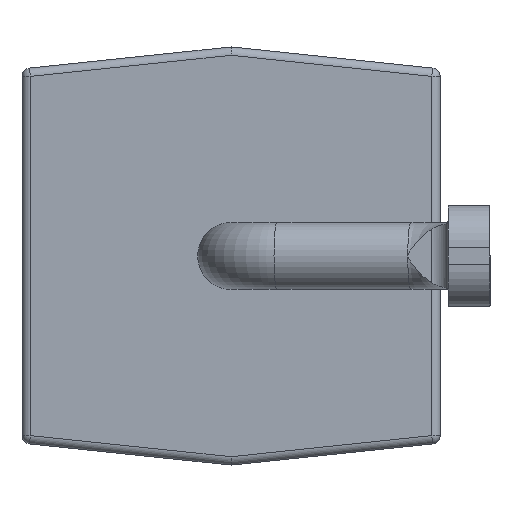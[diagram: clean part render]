
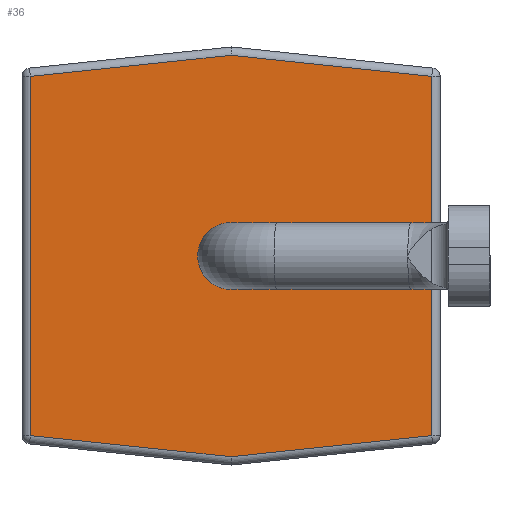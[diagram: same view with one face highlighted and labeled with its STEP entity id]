
A CAD part, left-side view. The second image highlights one B-rep face of the part: STEP entity #36.
In plain terms, the highlighted planar face has unit normal (-1, 0, 0).
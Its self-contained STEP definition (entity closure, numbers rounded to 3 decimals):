
#35 = VECTOR ( 'NONE', #488, 1000. ) ;
#36 = ADVANCED_FACE ( 'NONE', ( #1937 ), #2423, .F. ) ;
#158 = EDGE_CURVE ( 'NONE', #2889, #1620, #2102, .T. ) ;
#169 = LINE ( 'NONE', #2878, #1018 ) ;
#182 = VECTOR ( 'NONE', #671, 1000. ) ;
#214 = EDGE_LOOP ( 'NONE', ( #2693, #2294, #1868, #2803, #1371, #886 ) ) ;
#238 = EDGE_CURVE ( 'NONE', #1620, #2384, #1431, .T. ) ;
#271 = EDGE_CURVE ( 'NONE', #2746, #2898, #169, .T. ) ;
#285 = EDGE_CURVE ( 'NONE', #1046, #2889, #700, .T. ) ;
#317 = DIRECTION ( 'NONE',  ( 0., 0., 1. ) ) ;
#341 = VECTOR ( 'NONE', #317, 1000. ) ;
#349 = VECTOR ( 'NONE', #1627, 1000. ) ;
#363 = CARTESIAN_POINT ( 'NONE',  ( 0., 1.2, -1.074 ) ) ;
#393 = DIRECTION ( 'NONE',  ( 0., 0., -1. ) ) ;
#444 = CARTESIAN_POINT ( 'NONE',  ( 0., -1.2, 1.074 ) ) ;
#452 = DIRECTION ( 'NONE',  ( 0., 0., -1. ) ) ;
#488 = DIRECTION ( 'NONE',  ( 0., 0.995, -0.105 ) ) ;
#638 = CARTESIAN_POINT ( 'NONE',  ( 0., -1.245, -1.069 ) ) ;
#671 = DIRECTION ( 'NONE',  ( 0., 0.995, 0.105 ) ) ;
#700 = LINE ( 'NONE', #638, #349 ) ;
#704 = CARTESIAN_POINT ( 'NONE',  ( 0., 0., -1.2 ) ) ;
#709 = CARTESIAN_POINT ( 'NONE',  ( 0., 0., 1.2 ) ) ;
#718 = CARTESIAN_POINT ( 'NONE',  ( 0., -0.005, -1.2 ) ) ;
#759 = CARTESIAN_POINT ( 'NONE',  ( 0., 1.2, 1.074 ) ) ;
#886 = ORIENTED_EDGE ( 'NONE', *, *, #2636, .T. ) ;
#967 = EDGE_CURVE ( 'NONE', #2898, #1046, #3156, .T. ) ;
#1018 = VECTOR ( 'NONE', #452, 1000. ) ;
#1046 = VERTEX_POINT ( 'NONE', #704 ) ;
#1371 = ORIENTED_EDGE ( 'NONE', *, *, #238, .T. ) ;
#1431 = LINE ( 'NONE', #2937, #182 ) ;
#1437 = LINE ( 'NONE', #1928, #35 ) ;
#1620 = VERTEX_POINT ( 'NONE', #444 ) ;
#1627 = DIRECTION ( 'NONE',  ( 0., -0.995, 0.105 ) ) ;
#1714 = DIRECTION ( 'NONE',  ( 0., -0.995, -0.105 ) ) ;
#1868 = ORIENTED_EDGE ( 'NONE', *, *, #285, .T. ) ;
#1906 = CARTESIAN_POINT ( 'NONE',  ( 0., -1.2, -1.074 ) ) ;
#1928 = CARTESIAN_POINT ( 'NONE',  ( 0., 1.245, 1.069 ) ) ;
#1937 = FACE_OUTER_BOUND ( 'NONE', #214, .T. ) ;
#2086 = CARTESIAN_POINT ( 'NONE',  ( 0., -1.2, 0. ) ) ;
#2102 = LINE ( 'NONE', #2086, #341 ) ;
#2294 = ORIENTED_EDGE ( 'NONE', *, *, #967, .T. ) ;
#2335 = AXIS2_PLACEMENT_3D ( 'NONE', #2938, #2678, #393 ) ;
#2384 = VERTEX_POINT ( 'NONE', #709 ) ;
#2423 = PLANE ( 'NONE',  #2335 ) ;
#2534 = VECTOR ( 'NONE', #1714, 1000. ) ;
#2636 = EDGE_CURVE ( 'NONE', #2384, #2746, #1437, .T. ) ;
#2678 = DIRECTION ( 'NONE',  ( 1., 0., 0. ) ) ;
#2693 = ORIENTED_EDGE ( 'NONE', *, *, #271, .T. ) ;
#2746 = VERTEX_POINT ( 'NONE', #759 ) ;
#2803 = ORIENTED_EDGE ( 'NONE', *, *, #158, .T. ) ;
#2878 = CARTESIAN_POINT ( 'NONE',  ( 0., 1.2, 0. ) ) ;
#2889 = VERTEX_POINT ( 'NONE', #1906 ) ;
#2898 = VERTEX_POINT ( 'NONE', #363 ) ;
#2937 = CARTESIAN_POINT ( 'NONE',  ( 0., 0.005, 1.2 ) ) ;
#2938 = CARTESIAN_POINT ( 'NONE',  ( 0., 0., 0. ) ) ;
#3156 = LINE ( 'NONE', #718, #2534 ) ;
